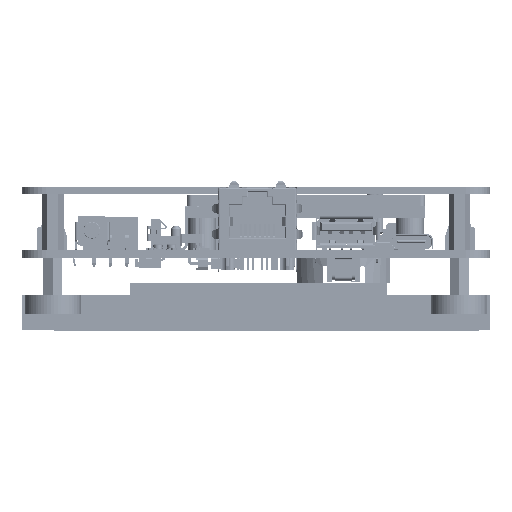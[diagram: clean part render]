
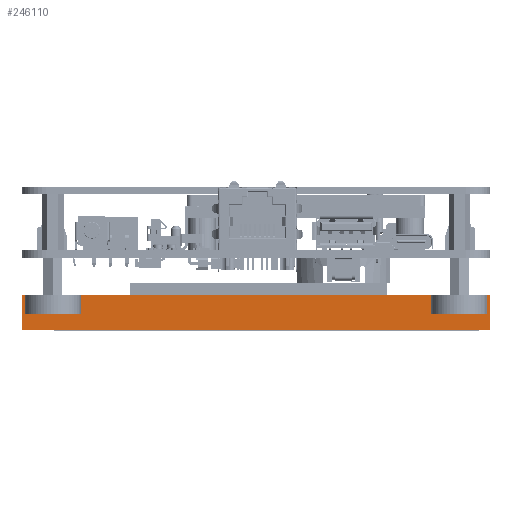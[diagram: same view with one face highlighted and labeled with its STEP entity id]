
A CAD part, left-side view. The second image highlights one B-rep face of the part: STEP entity #246110.
In plain terms, the highlighted planar face has unit normal (-1, 0, 0) as drawn and (1, 0, 0) by its records, which use the part's own axes.
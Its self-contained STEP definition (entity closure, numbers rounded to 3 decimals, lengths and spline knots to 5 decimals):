
#18009=ORIENTED_EDGE('',*,*,#87253,.T.);
#18010=ORIENTED_EDGE('',*,*,#87257,.T.);
#18011=ORIENTED_EDGE('',*,*,#87246,.F.);
#18012=ORIENTED_EDGE('',*,*,#87254,.F.);
#87246=EDGE_CURVE('',#122349,#122350,#146474,.T.);
#87253=EDGE_CURVE('',#122354,#122356,#146481,.T.);
#87254=EDGE_CURVE('',#122354,#122349,#146482,.T.);
#87257=EDGE_CURVE('',#122356,#122350,#146485,.T.);
#122349=VERTEX_POINT('',#365241);
#122350=VERTEX_POINT('',#365242);
#122354=VERTEX_POINT('',#365251);
#122356=VERTEX_POINT('',#365255);
#146474=LINE('',#365240,#175639);
#146481=LINE('',#365256,#175646);
#146482=LINE('',#365258,#175647);
#146485=LINE('',#365263,#175650);
#175639=VECTOR('',#294820,1.);
#175646=VECTOR('',#294829,1.);
#175647=VECTOR('',#294832,1.);
#175650=VECTOR('',#294839,1.);
#204081=EDGE_LOOP('',(#18009,#18010,#18011,#18012));
#219944=FACE_BOUND('',#204081,.T.);
#235271=PLANE('',#270903);
#246110=ADVANCED_FACE('',(#219944),#235271,.F.);
#270903=AXIS2_PLACEMENT_3D('',#365264,#294840,#294841);
#294820=DIRECTION('',(0.,1.,0.));
#294829=DIRECTION('',(0.,1.,0.));
#294832=DIRECTION('',(0.,0.,1.));
#294839=DIRECTION('',(0.,0.,1.));
#294840=DIRECTION('',(-1.,0.,0.));
#294841=DIRECTION('',(0.,1.,0.));
#365240=CARTESIAN_POINT('',(0.13672,0.00003,0.0155));
#365241=CARTESIAN_POINT('',(0.13672,0.00003,0.0155));
#365242=CARTESIAN_POINT('',(0.13672,0.1,0.0155));
#365251=CARTESIAN_POINT('',(0.13672,0.00003,0.008));
#365255=CARTESIAN_POINT('',(0.13672,0.1,0.008));
#365256=CARTESIAN_POINT('',(0.13672,0.00003,0.008));
#365258=CARTESIAN_POINT('',(0.13672,0.00003,0.008));
#365263=CARTESIAN_POINT('',(0.13672,0.1,0.008));
#365264=CARTESIAN_POINT('',(0.13672,0.00003,0.008));
